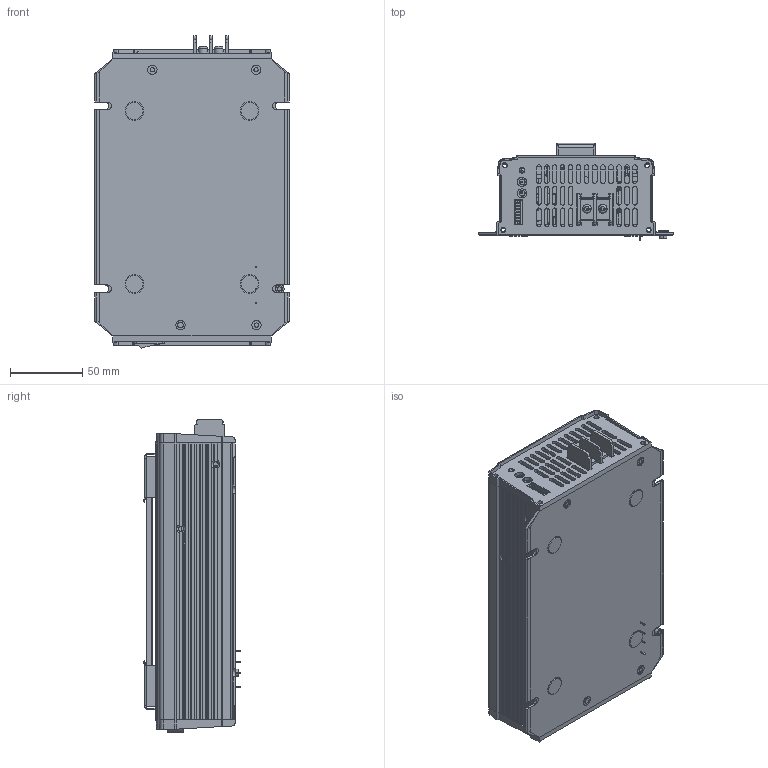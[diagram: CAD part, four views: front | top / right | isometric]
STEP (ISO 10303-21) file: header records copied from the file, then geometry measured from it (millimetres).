
FILE_DESCRIPTION(('Creo Elements/Direct Modeling STEP Export'),'2;1');
FILE_NAME('NPP-450.stp','2021-12-28T11:16:01',(''),(''),'PTC Creo Elements/Direct Modeling STEP processor for AP214 (Solid Model)','PTC Creo Elements/Direct Modeling 19.0A 04-Oct-2014 (C) Parametric Technology GmbH','');
FILE_SCHEMA(('AUTOMOTIVE_DESIGN { 1 0 10303 214 1 1 1 1 }'));
Length unit declared in the file: millimetre
Products named in the file (112): ON.PRT.1; 26D77668-81B1-466B-87E3--601440.PRT; FAN; ghjk.1.1; TN_1_1_1.PRT.1; GBJ; TR; TF; TU-301-SP-STA715_23.PRT; TN-M10_16.PRT; GP-TU301-Y5S_3.PRT; GP-TU301-Y10L_3.PRT; GP-TU-301-A4_3_1.PRT; GP-TU-301-A4_3_2.PRT; GP-TU-301-A4_3.ASM; GP-TU301-D4_3.PRT; TU-301-SP-STA715-AD4-M10_ASM_5.ASM; TU-301; 11; TR1; 温度开关; U型卡扣; 11.1; TRMC-61; 装配OK; HS-SZ132; PIN2-2; 1GG1HS-SZ132; PIN2-2.2; HS-SZ131; 1GG1HS-SZ131; PIN2-2.2.1.1; HS-SZ1; PIN2-2.2.1; 1GG1HS-SZ136; 1GG4CU-SZ034; 1GG; 上盖; FOOT_PAD_7_1.PRT.29; FOOT_PAD_7_1.PRT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
Assembly tree (112 placements, depth 6):
  NPP-450
    NPB-450面板-0508
      1xx3NPP-450-O-20210511.stp
        1xx3NPP-450-O-0511
      1xx3NPB-450-I-0508
    PCBP装配
      GF063X.1.1
      LED1
      GF063X
      DH2L-14
        2.7
        1.7
        2.6
        2.3
        2.4
        2.5
        2.1
        2.2
        1.6
        1.1
        1.2
        1.3
        1.5
        1.4
        p1
    MS1.1.1
    RR
    PCB
      PCBB
      PCBC
      PCBA
    1HH
      1HH2NPB-450B
      1HH2NPB-450A
      1HH125x60x0.3
      1HH135x56x0.3
    RR.1
    MOS
      TO220-1.2.1.1.1.1.2.1.1.2
      TO220-1.2.1.1.1.1.2.1.1.2.1
      MS1.1
      TO220-1.2.1.1.1.1.2.1.1.1.1.1.1.1
      TO220-1.2.1.1.1.1.2.1.1.1.1.1.1
      TO220-1.2.1.1.1.1.2.1.1.1.1.1
      TO220-1.2.1.1.1.1.2.1.1
      TO220-1.2.1.1.1.1.2.1.1.1.1
      TO220-1.2.1.1.1.1.2.1.1.1
      TO220-1.2.1.1.1.1.2
      TO220-1.2.1.1.1.1.2.1
    CASE
      下盖.1
        M3-5.5
        M3-5.5-1
        M3-5.5-2
        M4-5.5-1
        CASE下盖
      __.stp
        _X2_628A624B_X0_.ASM
          GUWEI1_1.PRT
          GUWEI1.PRT
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Bounding box: 135 x 67.75 x 216.93 mm (x, y, z)
Volume: 471689.2 mm3; surface area: 463074.1 mm2
Topology: 89 solids, 89 shells, 3374 faces, 8952 edges, 5873 vertices
Faces by surface type: plane 2287, cylinder 808, cone 228, torus 44, bspline 6, extrusion 1
Entity records: 105274 total; most frequent: CARTESIAN_POINT 19686, ORIENTED_EDGE 17792, DIRECTION 16225, EDGE_CURVE 8896, VECTOR 6271, LINE 6270, VERTEX_POINT 5833, AXIS2_PLACEMENT_3D 4977
